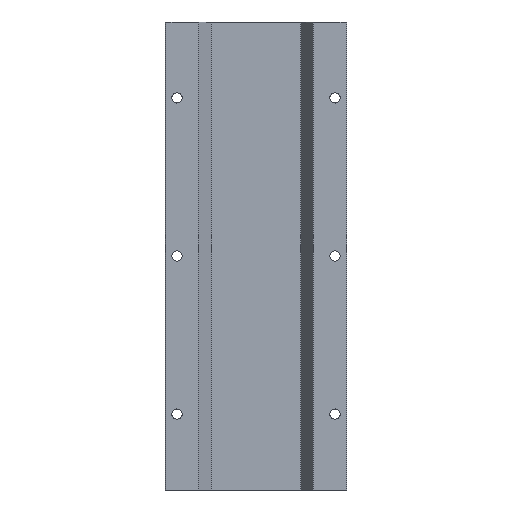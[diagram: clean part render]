
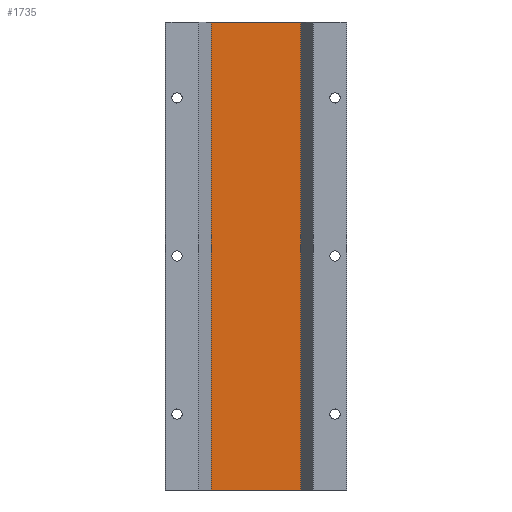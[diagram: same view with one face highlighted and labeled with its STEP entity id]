
A CAD part, front view. The second image highlights one B-rep face of the part: STEP entity #1735.
In plain terms, the highlighted planar face has unit normal (0, -1, 0).
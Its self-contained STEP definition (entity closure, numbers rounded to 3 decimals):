
#1729 = EDGE_CURVE ( 'NONE', #1743, #1744, #3346, .T. ) ;
#1735 = ADVANCED_FACE ( 'NONE', ( #3333 ), #3332, .T. ) ;
#1736 = EDGE_LOOP ( 'NONE', ( #1737, #1740, #1790, #1792 ) ) ;
#1737 = ORIENTED_EDGE ( 'NONE', *, *, #1738, .F. ) ;
#1738 = EDGE_CURVE ( 'NONE', #1739, #1744, #3765, .T. ) ;
#1739 = VERTEX_POINT ( 'NONE', #3766 ) ;
#1740 = ORIENTED_EDGE ( 'NONE', *, *, #1741, .F. ) ;
#1741 = EDGE_CURVE ( 'NONE', #1742, #1739, #3763, .T. ) ;
#1742 = VERTEX_POINT ( 'NONE', #3759 ) ;
#1743 = VERTEX_POINT ( 'NONE', #3758 ) ;
#1744 = VERTEX_POINT ( 'NONE', #3757 ) ;
#1790 = ORIENTED_EDGE ( 'NONE', *, *, #1791, .T. ) ;
#1791 = EDGE_CURVE ( 'NONE', #1742, #1743, #3773, .T. ) ;
#1792 = ORIENTED_EDGE ( 'NONE', *, *, #1729, .T. ) ;
#2957 = AXIS2_PLACEMENT_3D ( 'NONE', #3571, #3636, #3635 ) ;
#3332 = PLANE ( 'NONE',  #2957 ) ;
#3333 = FACE_OUTER_BOUND ( 'NONE', #1736, .T. ) ;
#3343 = DIRECTION ( 'NONE',  ( 0., 0., 1. ) ) ;
#3344 = VECTOR ( 'NONE', #3343, 1000. ) ;
#3345 = CARTESIAN_POINT ( 'NONE',  ( 28.2, 13.5, -296. ) ) ;
#3346 = LINE ( 'NONE', #3345, #3344 ) ;
#3571 = CARTESIAN_POINT ( 'NONE',  ( 28.2, 13.5, -296. ) ) ;
#3635 = DIRECTION ( 'NONE',  ( 0., 0., -1. ) ) ;
#3636 = DIRECTION ( 'NONE',  ( 0., -1., 0. ) ) ;
#3757 = CARTESIAN_POINT ( 'NONE',  ( 28.2, 13.5, 0. ) ) ;
#3758 = CARTESIAN_POINT ( 'NONE',  ( 28.2, 13.5, -296. ) ) ;
#3759 = CARTESIAN_POINT ( 'NONE',  ( -28.2, 13.5, -296. ) ) ;
#3760 = DIRECTION ( 'NONE',  ( 0., 0., 1. ) ) ;
#3761 = VECTOR ( 'NONE', #3760, 1000. ) ;
#3762 = CARTESIAN_POINT ( 'NONE',  ( -28.2, 13.5, -296. ) ) ;
#3763 = LINE ( 'NONE', #3762, #3761 ) ;
#3764 = CARTESIAN_POINT ( 'NONE',  ( 28.2, 13.5, 0. ) ) ;
#3765 = LINE ( 'NONE', #3764, #3768 ) ;
#3766 = CARTESIAN_POINT ( 'NONE',  ( -28.2, 13.5, 0. ) ) ;
#3767 = DIRECTION ( 'NONE',  ( 1., 0., 0. ) ) ;
#3768 = VECTOR ( 'NONE', #3767, 1000. ) ;
#3770 = DIRECTION ( 'NONE',  ( 1., 0., 0. ) ) ;
#3771 = VECTOR ( 'NONE', #3770, 1000. ) ;
#3772 = CARTESIAN_POINT ( 'NONE',  ( 28.2, 13.5, -296. ) ) ;
#3773 = LINE ( 'NONE', #3772, #3771 ) ;
